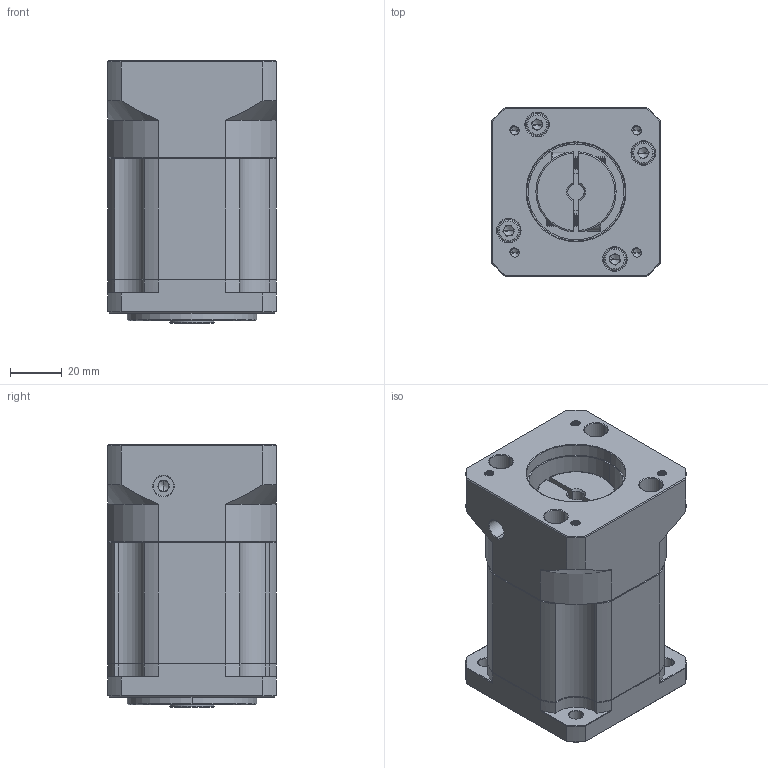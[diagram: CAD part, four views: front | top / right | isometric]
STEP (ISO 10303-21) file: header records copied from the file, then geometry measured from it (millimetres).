
FILE_DESCRIPTION (( 'STEP AP214' ), '1' );
FILE_NAME ('ZB60-K10-L2-6.35-38.1-47.14X47.14-M4.STEP', '2022-04-16T14:41:38', ( '' ), ( 'Microsoft' ), 'SwSTEP 2.0', 'SolidWorks 2016', '' );
FILE_SCHEMA (( 'AUTOMOTIVE_DESIGN' ));
Length unit declared in the file: millimetre
Products named in the file (1): ZB60-K10-L2-6.35-38.1-47.14X47.14-M4
Bounding box: 65 x 65 x 101.5 mm (x, y, z)
Volume: 327784.6 mm3; surface area: 57326.1 mm2
Topology: 6 solids, 6 shells, 1823 faces, 4835 edges, 3098 vertices
Faces by surface type: plane 876, cylinder 342, bspline 292, cone 279, torus 34
Entity records: 93041 total; most frequent: CARTESIAN_POINT 29831, ORIENTED_EDGE 9614, DIRECTION 7965, EDGE_CURVE 4807, VERTEX_POINT 3098, LINE 2961, VECTOR 2961, AXIS2_PLACEMENT_3D 2502
